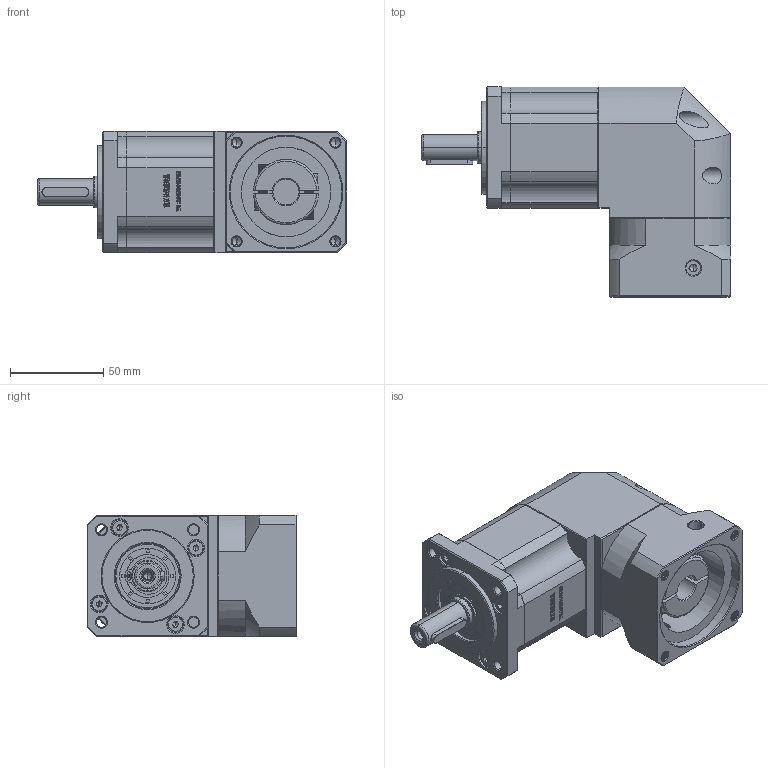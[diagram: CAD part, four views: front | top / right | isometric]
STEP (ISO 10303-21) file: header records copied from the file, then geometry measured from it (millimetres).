
FILE_DESCRIPTION (( 'STEP AP214' ), '1' );
FILE_NAME ('ZBR60-D14-L2-14-60-75-M6.STEP', '2022-04-19T09:04:28', ( '' ), ( 'Microsoft' ), 'SwSTEP 2.0', 'SolidWorks 2016', '' );
FILE_SCHEMA (( 'AUTOMOTIVE_DESIGN' ));
Length unit declared in the file: millimetre
Products named in the file (1): ZBR60-D14-L2-14-60-75-M6
Bounding box: 166 x 112.7 x 65 mm (x, y, z)
Volume: 600248.1 mm3; surface area: 83483.2 mm2
Topology: 5 solids, 5 shells, 2839 faces, 7701 edges, 4998 vertices
Faces by surface type: plane 1472, bspline 579, cylinder 428, cone 326, torus 34
Entity records: 154669 total; most frequent: CARTESIAN_POINT 56149, ORIENTED_EDGE 15342, DIRECTION 11725, EDGE_CURVE 7671, LINE 5065, VECTOR 5065, VERTEX_POINT 4998, AXIS2_PLACEMENT_3D 3330
